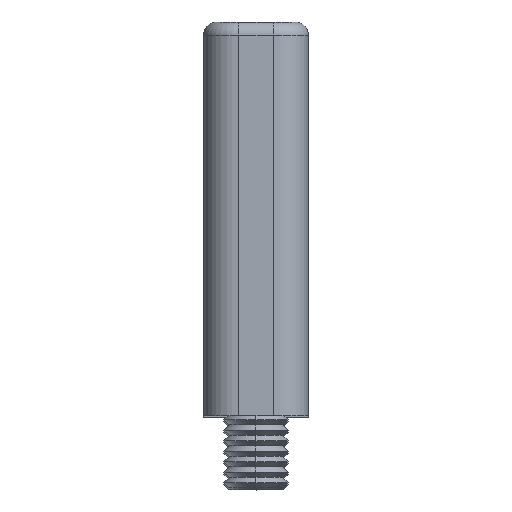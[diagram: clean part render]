
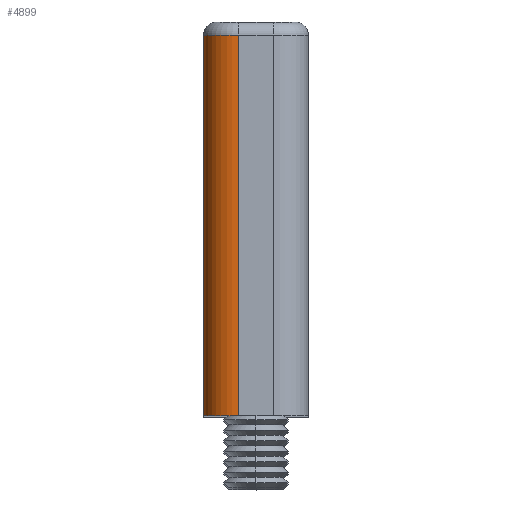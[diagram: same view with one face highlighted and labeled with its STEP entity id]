
A CAD part, top view. The second image highlights one B-rep face of the part: STEP entity #4899.
In plain terms, the highlighted cylindrical face has radius 2.667 mm (diameter 5.333 mm), a partial arc.
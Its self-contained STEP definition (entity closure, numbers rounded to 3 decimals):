
#95 = VERTEX_POINT ( 'NONE', #4647 ) ;
#212 = EDGE_CURVE ( 'NONE', #2242, #3794, #1056, .T. ) ;
#444 = DIRECTION ( 'NONE',  ( 0., 0., -1. ) ) ;
#586 = CARTESIAN_POINT ( 'NONE',  ( -7.5, 0., -1.333 ) ) ;
#943 = CARTESIAN_POINT ( 'NONE',  ( -4.833, 0., -1.333 ) ) ;
#1056 = LINE ( 'NONE', #1078, #3061 ) ;
#1078 = CARTESIAN_POINT ( 'NONE',  ( -7.5, 30., -1.333 ) ) ;
#1107 = CARTESIAN_POINT ( 'NONE',  ( -7.5, 29., -1.333 ) ) ;
#1536 = DIRECTION ( 'NONE',  ( 0., -1., 0. ) ) ;
#1835 = EDGE_CURVE ( 'NONE', #95, #5626, #4253, .T. ) ;
#1837 = VECTOR ( 'NONE', #1964, 1000. ) ;
#1873 = CIRCLE ( 'NONE', #2555, 2.667 ) ;
#1964 = DIRECTION ( 'NONE',  ( 0., -1., 0. ) ) ;
#2145 = ORIENTED_EDGE ( 'NONE', *, *, #5338, .T. ) ;
#2242 = VERTEX_POINT ( 'NONE', #1107 ) ;
#2259 = CARTESIAN_POINT ( 'NONE',  ( -4.833, 30., -1.333 ) ) ;
#2526 = DIRECTION ( 'NONE',  ( 0., 0., 1. ) ) ;
#2555 = AXIS2_PLACEMENT_3D ( 'NONE', #3877, #4807, #2526 ) ;
#2626 = CARTESIAN_POINT ( 'NONE',  ( -4.833, 0., -4. ) ) ;
#3061 = VECTOR ( 'NONE', #1536, 1000. ) ;
#3244 = DIRECTION ( 'NONE',  ( 0., 1., 0. ) ) ;
#3710 = AXIS2_PLACEMENT_3D ( 'NONE', #943, #3244, #4622 ) ;
#3794 = VERTEX_POINT ( 'NONE', #586 ) ;
#3877 = CARTESIAN_POINT ( 'NONE',  ( -4.833, 29., -1.333 ) ) ;
#3881 = ORIENTED_EDGE ( 'NONE', *, *, #4475, .T. ) ;
#4210 = CYLINDRICAL_SURFACE ( 'NONE', #4547, 2.667 ) ;
#4238 = ORIENTED_EDGE ( 'NONE', *, *, #212, .F. ) ;
#4253 = LINE ( 'NONE', #5694, #1837 ) ;
#4475 = EDGE_CURVE ( 'NONE', #2242, #95, #1873, .T. ) ;
#4500 = CIRCLE ( 'NONE', #3710, 2.667 ) ;
#4547 = AXIS2_PLACEMENT_3D ( 'NONE', #2259, #5475, #444 ) ;
#4622 = DIRECTION ( 'NONE',  ( 0., 0., 1. ) ) ;
#4647 = CARTESIAN_POINT ( 'NONE',  ( -4.833, 29., -4. ) ) ;
#4725 = EDGE_LOOP ( 'NONE', ( #4238, #3881, #5553, #2145 ) ) ;
#4792 = FACE_OUTER_BOUND ( 'NONE', #4725, .T. ) ;
#4807 = DIRECTION ( 'NONE',  ( 0., -1., 0. ) ) ;
#4899 = ADVANCED_FACE ( 'NONE', ( #4792 ), #4210, .T. ) ;
#5338 = EDGE_CURVE ( 'NONE', #5626, #3794, #4500, .T. ) ;
#5475 = DIRECTION ( 'NONE',  ( 0., -1., 0. ) ) ;
#5553 = ORIENTED_EDGE ( 'NONE', *, *, #1835, .T. ) ;
#5626 = VERTEX_POINT ( 'NONE', #2626 ) ;
#5694 = CARTESIAN_POINT ( 'NONE',  ( -4.833, 30., -4. ) ) ;
